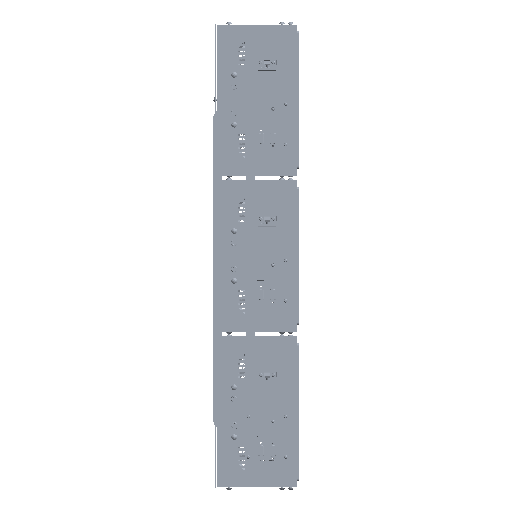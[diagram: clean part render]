
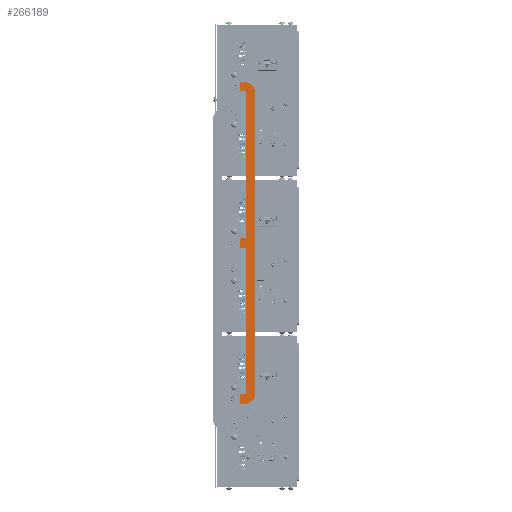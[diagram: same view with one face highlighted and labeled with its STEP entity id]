
A CAD part, left-side view. The second image highlights one B-rep face of the part: STEP entity #266189.
In plain terms, the highlighted planar face has unit normal (-1, 0, 0).
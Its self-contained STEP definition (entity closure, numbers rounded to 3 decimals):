
#13076=PLANE('',#279690);
#21051=LINE('',#378198,#42420);
#21058=LINE('',#378212,#42427);
#21064=LINE('',#378223,#42433);
#21078=LINE('',#378259,#42447);
#21081=LINE('',#378267,#42450);
#21084=LINE('',#378274,#42453);
#21085=LINE('',#378277,#42454);
#21088=LINE('',#378285,#42457);
#21091=LINE('',#378292,#42460);
#21092=LINE('',#378295,#42461);
#21095=LINE('',#378303,#42464);
#21098=LINE('',#378310,#42467);
#42420=VECTOR('',#304771,0.394);
#42427=VECTOR('',#304780,0.394);
#42433=VECTOR('',#304788,0.394);
#42447=VECTOR('',#304818,0.394);
#42450=VECTOR('',#304827,0.394);
#42453=VECTOR('',#304836,0.394);
#42454=VECTOR('',#304839,0.394);
#42457=VECTOR('',#304848,0.394);
#42460=VECTOR('',#304857,0.394);
#42461=VECTOR('',#304860,0.394);
#42464=VECTOR('',#304869,0.394);
#42467=VECTOR('',#304878,0.394);
#67125=FACE_OUTER_BOUND('',#80655,.T.);
#80655=EDGE_LOOP('',(#178473,#178474,#178475,#178476,#178477,#178478,#178479,
#178480,#178481,#178482,#178483,#178484,#178485,#178486,#178487,#178488,
#178489,#178490));
#95782=CIRCLE('',#279671,0.098);
#95783=CIRCLE('',#279674,0.098);
#95784=CIRCLE('',#279678,0.098);
#95785=CIRCLE('',#279681,0.098);
#95786=CIRCLE('',#279685,0.689);
#95787=CIRCLE('',#279688,0.689);
#107540=VERTEX_POINT('',#378195);
#107541=VERTEX_POINT('',#378197);
#107546=VERTEX_POINT('',#378209);
#107547=VERTEX_POINT('',#378211);
#107550=VERTEX_POINT('',#378220);
#107551=VERTEX_POINT('',#378222);
#107565=VERTEX_POINT('',#378258);
#107566=VERTEX_POINT('',#378262);
#107567=VERTEX_POINT('',#378266);
#107568=VERTEX_POINT('',#378270);
#107569=VERTEX_POINT('',#378276);
#107570=VERTEX_POINT('',#378280);
#107571=VERTEX_POINT('',#378284);
#107572=VERTEX_POINT('',#378288);
#107573=VERTEX_POINT('',#378294);
#107574=VERTEX_POINT('',#378298);
#107575=VERTEX_POINT('',#378302);
#107576=VERTEX_POINT('',#378306);
#136065=EDGE_CURVE('',#107541,#107540,#21051,.T.);
#136072=EDGE_CURVE('',#107547,#107546,#21058,.T.);
#136078=EDGE_CURVE('',#107551,#107550,#21064,.T.);
#136098=EDGE_CURVE('',#107565,#107551,#21078,.T.);
#136100=EDGE_CURVE('',#107566,#107565,#95782,.T.);
#136102=EDGE_CURVE('',#107567,#107566,#21081,.T.);
#136104=EDGE_CURVE('',#107568,#107567,#95783,.T.);
#136106=EDGE_CURVE('',#107540,#107568,#21084,.T.);
#136107=EDGE_CURVE('',#107569,#107541,#21085,.T.);
#136109=EDGE_CURVE('',#107570,#107569,#95784,.T.);
#136111=EDGE_CURVE('',#107571,#107570,#21088,.T.);
#136113=EDGE_CURVE('',#107572,#107571,#95785,.T.);
#136115=EDGE_CURVE('',#107546,#107572,#21091,.T.);
#136116=EDGE_CURVE('',#107573,#107547,#21092,.T.);
#136118=EDGE_CURVE('',#107574,#107573,#95786,.T.);
#136120=EDGE_CURVE('',#107575,#107574,#21095,.T.);
#136122=EDGE_CURVE('',#107576,#107575,#95787,.T.);
#136124=EDGE_CURVE('',#107550,#107576,#21098,.T.);
#178473=ORIENTED_EDGE('',*,*,#136078,.T.);
#178474=ORIENTED_EDGE('',*,*,#136124,.T.);
#178475=ORIENTED_EDGE('',*,*,#136122,.T.);
#178476=ORIENTED_EDGE('',*,*,#136120,.T.);
#178477=ORIENTED_EDGE('',*,*,#136118,.T.);
#178478=ORIENTED_EDGE('',*,*,#136116,.T.);
#178479=ORIENTED_EDGE('',*,*,#136072,.T.);
#178480=ORIENTED_EDGE('',*,*,#136115,.T.);
#178481=ORIENTED_EDGE('',*,*,#136113,.T.);
#178482=ORIENTED_EDGE('',*,*,#136111,.T.);
#178483=ORIENTED_EDGE('',*,*,#136109,.T.);
#178484=ORIENTED_EDGE('',*,*,#136107,.T.);
#178485=ORIENTED_EDGE('',*,*,#136065,.T.);
#178486=ORIENTED_EDGE('',*,*,#136106,.T.);
#178487=ORIENTED_EDGE('',*,*,#136104,.T.);
#178488=ORIENTED_EDGE('',*,*,#136102,.T.);
#178489=ORIENTED_EDGE('',*,*,#136100,.T.);
#178490=ORIENTED_EDGE('',*,*,#136098,.T.);
#266189=ADVANCED_FACE('',(#67125),#13076,.T.);
#279671=AXIS2_PLACEMENT_3D('',#378263,#304822,#304823);
#279674=AXIS2_PLACEMENT_3D('',#378271,#304831,#304832);
#279678=AXIS2_PLACEMENT_3D('',#378281,#304843,#304844);
#279681=AXIS2_PLACEMENT_3D('',#378289,#304852,#304853);
#279685=AXIS2_PLACEMENT_3D('',#378299,#304864,#304865);
#279688=AXIS2_PLACEMENT_3D('',#378307,#304873,#304874);
#279690=AXIS2_PLACEMENT_3D('',#378311,#304879,#304880);
#304771=DIRECTION('',(0.,0.,-1.));
#304780=DIRECTION('',(0.,0.,-1.));
#304788=DIRECTION('',(0.,0.001,-1.));
#304818=DIRECTION('',(0.,1.,0.001));
#304822=DIRECTION('center_axis',(1.,0.,0.));
#304823=DIRECTION('ref_axis',(0.,-0.001,
1.));
#304827=DIRECTION('',(0.,0.,-1.));
#304831=DIRECTION('center_axis',(1.,0.,0.));
#304832=DIRECTION('ref_axis',(0.,1.,0.));
#304836=DIRECTION('',(0.,-1.,0.));
#304839=DIRECTION('',(0.,1.,0.));
#304843=DIRECTION('center_axis',(1.,0.,0.));
#304844=DIRECTION('ref_axis',(0.,0.,
1.));
#304848=DIRECTION('',(0.,0.,-1.));
#304852=DIRECTION('center_axis',(1.,0.,0.));
#304853=DIRECTION('ref_axis',(0.,1.,0.));
#304857=DIRECTION('',(0.,-1.,0.));
#304860=DIRECTION('',(0.,1.,0.));
#304864=DIRECTION('center_axis',(-1.,0.,0.));
#304865=DIRECTION('ref_axis',(0.,-1.,0.));
#304869=DIRECTION('',(0.,0.,1.));
#304873=DIRECTION('center_axis',(-1.,0.,0.));
#304874=DIRECTION('ref_axis',(0.,0.,
-1.));
#304878=DIRECTION('',(0.,-1.,0.));
#304879=DIRECTION('center_axis',(-1.,0.,0.));
#304880=DIRECTION('ref_axis',(0.,0.,
-1.));
#378195=CARTESIAN_POINT('',(-10.494,-0.312,11.346));
#378197=CARTESIAN_POINT('',(-10.494,-0.312,11.937));
#378198=CARTESIAN_POINT('',(-10.494,-0.312,11.937));
#378209=CARTESIAN_POINT('',(-10.494,-0.312,21.228));
#378211=CARTESIAN_POINT('',(-10.494,-0.312,21.819));
#378212=CARTESIAN_POINT('',(-10.494,-0.312,21.819));
#378220=CARTESIAN_POINT('',(-10.494,-0.311,1.464));
#378222=CARTESIAN_POINT('',(-10.494,-0.312,2.055));
#378223=CARTESIAN_POINT('',(-10.494,-0.312,2.055));
#378258=CARTESIAN_POINT('',(-10.494,-0.587,2.055));
#378259=CARTESIAN_POINT('',(-10.494,-0.587,2.055));
#378262=CARTESIAN_POINT('',(-10.494,-0.686,2.15));
#378263=CARTESIAN_POINT('Origin',(-10.494,-0.587,
2.153));
#378266=CARTESIAN_POINT('',(-10.494,-0.686,11.248));
#378267=CARTESIAN_POINT('',(-10.494,-0.686,11.248));
#378270=CARTESIAN_POINT('',(-10.494,-0.587,11.346));
#378271=CARTESIAN_POINT('Origin',(-10.494,-0.587,
11.248));
#378274=CARTESIAN_POINT('',(-10.494,-0.312,11.346));
#378276=CARTESIAN_POINT('',(-10.494,-0.587,11.937));
#378277=CARTESIAN_POINT('',(-10.494,-0.587,11.937));
#378280=CARTESIAN_POINT('',(-10.494,-0.686,12.035));
#378281=CARTESIAN_POINT('Origin',(-10.494,-0.587,
12.035));
#378284=CARTESIAN_POINT('',(-10.494,-0.686,21.13));
#378285=CARTESIAN_POINT('',(-10.494,-0.686,21.13));
#378288=CARTESIAN_POINT('',(-10.494,-0.587,21.228));
#378289=CARTESIAN_POINT('Origin',(-10.494,-0.587,
21.13));
#378292=CARTESIAN_POINT('',(-10.494,-0.312,21.228));
#378294=CARTESIAN_POINT('',(-10.494,-0.587,21.819));
#378295=CARTESIAN_POINT('',(-10.494,-0.587,21.819));
#378298=CARTESIAN_POINT('',(-10.494,-1.276,21.13));
#378299=CARTESIAN_POINT('Origin',(-10.494,-0.587,
21.13));
#378302=CARTESIAN_POINT('',(-10.494,-1.276,2.153));
#378303=CARTESIAN_POINT('',(-10.494,-1.276,2.153));
#378306=CARTESIAN_POINT('',(-10.494,-0.587,1.464));
#378307=CARTESIAN_POINT('Origin',(-10.494,-0.587,
2.153));
#378310=CARTESIAN_POINT('',(-10.494,-0.311,1.464));
#378311=CARTESIAN_POINT('Origin',(-10.494,-0.794,
11.641));
